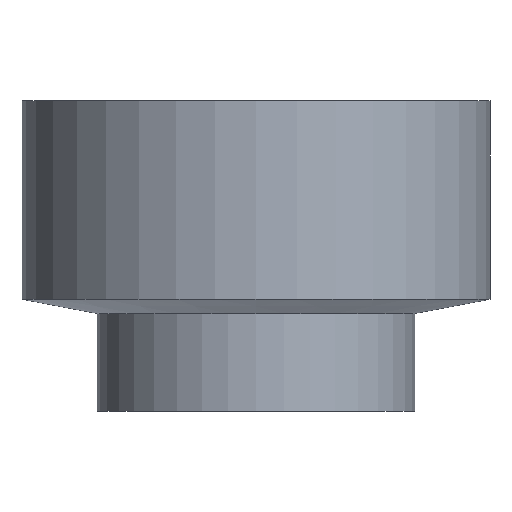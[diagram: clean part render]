
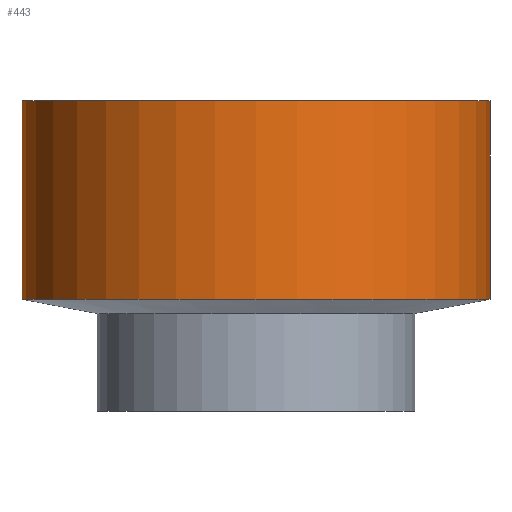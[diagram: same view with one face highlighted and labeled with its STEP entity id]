
A CAD part, front view. The second image highlights one B-rep face of the part: STEP entity #443.
In plain terms, the highlighted cylindrical face has radius 49.4 mm (diameter 98.8 mm), a partial arc.
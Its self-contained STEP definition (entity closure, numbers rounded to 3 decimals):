
#3 = CARTESIAN_POINT ( 'NONE',  ( -49.4, 0., 65.5 ) ) ;
#28 = DIRECTION ( 'NONE',  ( -1., 0., 0. ) ) ;
#30 = EDGE_CURVE ( 'NONE', #260, #352, #402, .T. ) ;
#44 = FACE_OUTER_BOUND ( 'NONE', #293, .T. ) ;
#70 = VECTOR ( 'NONE', #394, 1000. ) ;
#81 = VERTEX_POINT ( 'NONE', #199 ) ;
#121 = ORIENTED_EDGE ( 'NONE', *, *, #230, .F. ) ;
#149 = AXIS2_PLACEMENT_3D ( 'NONE', #350, #359, #28 ) ;
#166 = DIRECTION ( 'NONE',  ( 0., 0., -1. ) ) ;
#182 = EDGE_CURVE ( 'NONE', #459, #260, #238, .T. ) ;
#199 = CARTESIAN_POINT ( 'NONE',  ( -49.4, 0., 23.6 ) ) ;
#230 = EDGE_CURVE ( 'NONE', #352, #81, #490, .T. ) ;
#238 = CIRCLE ( 'NONE', #393, 49.4 ) ;
#249 = ORIENTED_EDGE ( 'NONE', *, *, #30, .F. ) ;
#251 = LINE ( 'NONE', #3, #263 ) ;
#260 = VERTEX_POINT ( 'NONE', #377 ) ;
#263 = VECTOR ( 'NONE', #166, 1000. ) ;
#269 = EDGE_CURVE ( 'NONE', #459, #81, #251, .T. ) ;
#293 = EDGE_LOOP ( 'NONE', ( #249, #450, #444, #121 ) ) ;
#308 = CYLINDRICAL_SURFACE ( 'NONE', #149, 49.4 ) ;
#333 = CARTESIAN_POINT ( 'NONE',  ( 0., 0., 65.5 ) ) ;
#350 = CARTESIAN_POINT ( 'NONE',  ( 0., 0., 65.5 ) ) ;
#352 = VERTEX_POINT ( 'NONE', #460 ) ;
#357 = AXIS2_PLACEMENT_3D ( 'NONE', #442, #403, #525 ) ;
#359 = DIRECTION ( 'NONE',  ( 0., 0., -1. ) ) ;
#361 = CARTESIAN_POINT ( 'NONE',  ( -49.4, 0., 65.5 ) ) ;
#377 = CARTESIAN_POINT ( 'NONE',  ( 49.4, 0., 65.5 ) ) ;
#393 = AXIS2_PLACEMENT_3D ( 'NONE', #333, #446, #521 ) ;
#394 = DIRECTION ( 'NONE',  ( 0., 0., -1. ) ) ;
#402 = LINE ( 'NONE', #479, #70 ) ;
#403 = DIRECTION ( 'NONE',  ( 0., 0., -1. ) ) ;
#442 = CARTESIAN_POINT ( 'NONE',  ( 0., 0., 23.6 ) ) ;
#443 = ADVANCED_FACE ( 'NONE', ( #44 ), #308, .T. ) ;
#444 = ORIENTED_EDGE ( 'NONE', *, *, #269, .T. ) ;
#446 = DIRECTION ( 'NONE',  ( 0., 0., 1. ) ) ;
#450 = ORIENTED_EDGE ( 'NONE', *, *, #182, .F. ) ;
#459 = VERTEX_POINT ( 'NONE', #361 ) ;
#460 = CARTESIAN_POINT ( 'NONE',  ( 49.4, 0., 23.6 ) ) ;
#479 = CARTESIAN_POINT ( 'NONE',  ( 49.4, 0., 65.5 ) ) ;
#490 = CIRCLE ( 'NONE', #357, 49.4 ) ;
#521 = DIRECTION ( 'NONE',  ( 1., 0., 0. ) ) ;
#525 = DIRECTION ( 'NONE',  ( -1., 0., 0. ) ) ;
